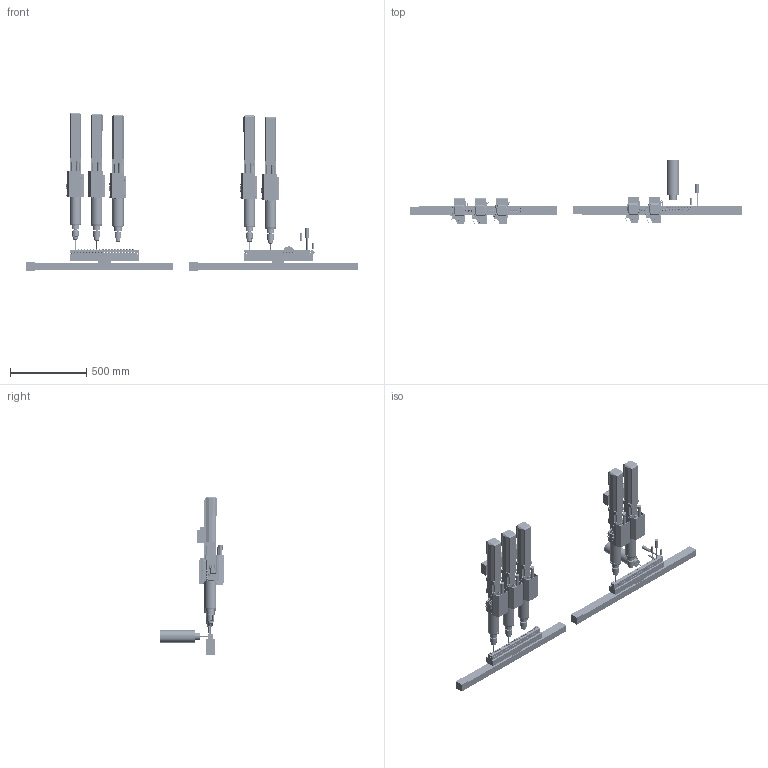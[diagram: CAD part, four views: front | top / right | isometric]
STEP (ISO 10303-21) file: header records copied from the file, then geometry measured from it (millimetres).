
FILE_DESCRIPTION(('Open CASCADE Model'),'2;1');
FILE_NAME('Open CASCADE Shape Model','2026-07-29T09:20:04',('Author'),( 'Open CASCADE'),'Open CASCADE STEP processor 7.8','Open CASCADE 7.8' ,'Unknown');
FILE_SCHEMA(('AUTOMOTIVE_DESIGN { 1 0 10303 214 1 1 1 1 }'));
Length unit declared in the file: millimetre
Products named in the file (68): MACHINE-full; A_bolt_00; A_bolt_01; A_bolt_02; A_bolt_03; A_bolt_04; A_bolt_05; A_bolt_06; A_bolt_07; A_bolt_08; A_rail_09; A_bolt_10; A_bolt_11; A_bolt_12; A_bolt_13; A_bolt_14; A_bolt_15; A_bolt_16; A_bolt_17; A_bolt_18; A_bolt_19; A_bolt_20; A_pin_21; A_rail_22; B_bolt_00; B_bolt_01; B_bolt_02; B_bolt_03; B_bolt_04; B_bolt_05; B_bolt_06; B_bolt_07; B_bolt_08; B_rail_09; B_bolt_10; B_bolt_11; B_bolt_12; B_bolt_13; B_bolt_14; B_bolt_15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
Assembly tree (67 placements, depth 2):
  MACHINE-full
    A_bolt_00
    A_bolt_01
    A_bolt_02
    A_bolt_03
    A_bolt_04
    A_bolt_05
    A_bolt_06
    A_bolt_07
    A_bolt_08
    A_rail_09
    A_bolt_10
    A_bolt_11
    A_bolt_12
    A_bolt_13
    A_bolt_14
    A_bolt_15
    A_bolt_16
    A_bolt_17
    A_bolt_18
    A_bolt_19
    A_bolt_20
    A_pin_21
    A_rail_22
    B_bolt_00
    B_bolt_01
    B_bolt_02
    B_bolt_03
    B_bolt_04
    B_bolt_05
    B_bolt_06
    B_bolt_07
    B_bolt_08
    B_rail_09
    B_bolt_10
    B_bolt_11
    B_bolt_12
    B_bolt_13
    B_bolt_14
    B_bolt_15
    B_bolt_16
    B_bolt_17
    B_bolt_18
    B_bolt_19
    B_bolt_20
    B_pin_21
    B_rail_22
    A1_chamfer_head
    A1_tool
    A2_drill50_head
    A2_tool
    A3_drill100_head
    A3_tool
    B1_chamfer_head
    B1_tool
    B2_drill_head
    B2_tool
    B3_deburr_spindle
    B3_tool
    B4_air_nozzle
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Bounding box: 2184 x 425.18 x 1036 mm (x, y, z)
Volume: 10601808.7 mm3; surface area: 3704741.2 mm2
Topology: 67 solids, 382 shells, 8031 faces, 29611 edges, 22041 vertices
Faces by surface type: plane 4275, cylinder 2522, cone 1059, bspline 120, torus 40, revolution 15
Full cylindrical faces by diameter (mm): 3 x84, 3.5 x4, 4 x1, 5 x16, 6 x42, 6.5 x4, 6.8 x8, 8 x62, 8.75 x40, 10 x120, 12 x42, 14 x4, 16 x1, 17 x40, 22 x2, 50 x1, 80 x1
Entity records: 798307 total; most frequent: CARTESIAN_POINT 301004, DIRECTION 89204, LINE 51095, VECTOR 51095, ORIENTED_EDGE 47508, PCURVE 47508, DEFINITIONAL_REPRESENTATION 47508, EDGE_CURVE 29569
